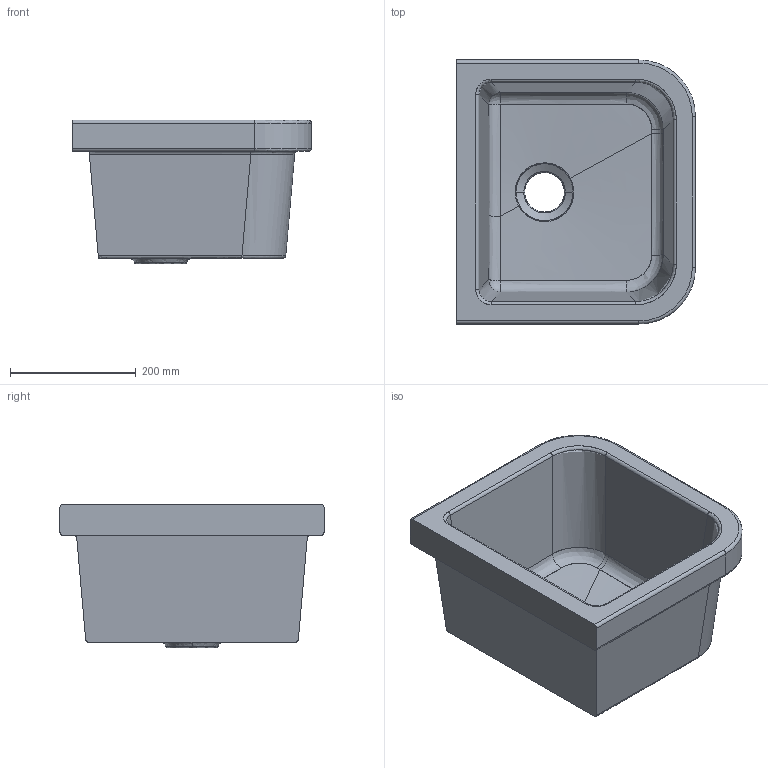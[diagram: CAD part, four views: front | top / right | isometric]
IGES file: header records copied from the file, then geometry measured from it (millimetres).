
Start section: START RECORD GO HERE.
Global section: file name: 3001_3D.igs; native system: DASSAULT SYSTEMES CATIA V5 R19 - www.3ds.com; preprocessor: CATIA Version 5 Release 19 SP 5 ; author: gioge; organization: LAPTOP-G94B6G74; date: 20201024.092059; units: millimetre
Bounding box: 380 x 420 x 229 mm (x, y, z)
Surface area: 781014.5 mm2 (no closed solid volume)
Topology: 0 solids, 0 shells, 78 faces, 356 edges, 356 vertices
Faces by surface type: bspline 36, revolution 34, plane 8
